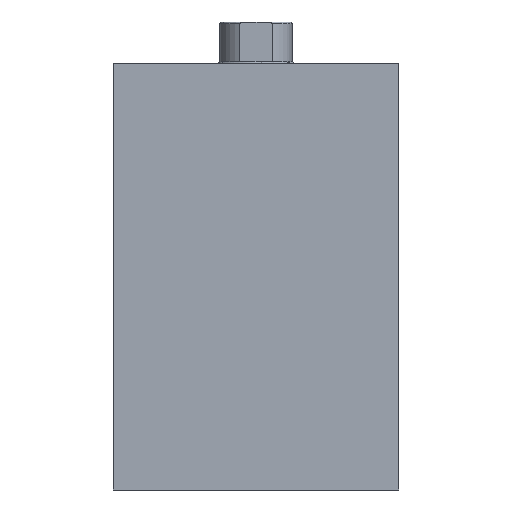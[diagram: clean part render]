
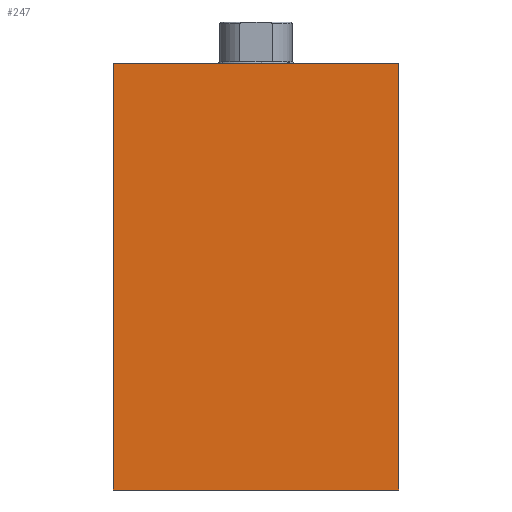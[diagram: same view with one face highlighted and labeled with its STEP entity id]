
A CAD part, left-side view. The second image highlights one B-rep face of the part: STEP entity #247.
In plain terms, the highlighted planar face has unit normal (-1, 0, 0) as drawn and (0, 0, -1) by its records, which use the part's own axes.
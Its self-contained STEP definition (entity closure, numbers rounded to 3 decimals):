
#247 = ADVANCED_FACE( '', ( #338 ), #339, .F. );
#338 = FACE_OUTER_BOUND( '', #554, .T. );
#339 = PLANE( '', #555 );
#554 = EDGE_LOOP( '', ( #789, #790, #791, #792 ) );
#555 = AXIS2_PLACEMENT_3D( '', #793, #794, #795 );
#789 = ORIENTED_EDGE( '', *, *, #1166, .T. );
#790 = ORIENTED_EDGE( '', *, *, #1183, .F. );
#791 = ORIENTED_EDGE( '', *, *, #1178, .F. );
#792 = ORIENTED_EDGE( '', *, *, #1182, .T. );
#793 = CARTESIAN_POINT( '', ( 112., -37.5, -27.5 ) );
#794 = DIRECTION( '', ( 0., 0., 1. ) );
#795 = DIRECTION( '', ( 1., 0., 0. ) );
#1166 = EDGE_CURVE( '', #1267, #1265, #1268, .T. );
#1178 = EDGE_CURVE( '', #1287, #1289, #1290, .T. );
#1182 = EDGE_CURVE( '', #1287, #1267, #1296, .T. );
#1183 = EDGE_CURVE( '', #1289, #1265, #1297, .T. );
#1265 = VERTEX_POINT( '', #1510 );
#1267 = VERTEX_POINT( '', #1513 );
#1268 = LINE( '', #1514, #1515 );
#1287 = VERTEX_POINT( '', #1706 );
#1289 = VERTEX_POINT( '', #1709 );
#1290 = LINE( '', #1710, #1711 );
#1296 = B_SPLINE_CURVE_WITH_KNOTS( '', 1, ( #1784, #1785 ), .UNSPECIFIED., .F., .F., ( 2, 2 ), ( 0., 1. ), .UNSPECIFIED. );
#1297 = B_SPLINE_CURVE_WITH_KNOTS( '', 1, ( #1786, #1787 ), .UNSPECIFIED., .F., .F., ( 2, 2 ), ( 0., 1. ), .UNSPECIFIED. );
#1510 = CARTESIAN_POINT( '', ( 0., 37.5, -27.5 ) );
#1513 = CARTESIAN_POINT( '', ( 0., -37.5, -27.5 ) );
#1514 = CARTESIAN_POINT( '', ( 0., -37.5, -27.5 ) );
#1515 = VECTOR( '', #3890, 1000. );
#1706 = CARTESIAN_POINT( '', ( 112., -37.5, -27.5 ) );
#1709 = CARTESIAN_POINT( '', ( 112., 37.5, -27.5 ) );
#1710 = CARTESIAN_POINT( '', ( 112., -37.5, -27.5 ) );
#1711 = VECTOR( '', #3897, 1000. );
#1784 = CARTESIAN_POINT( '', ( 112., -37.5, -27.5 ) );
#1785 = CARTESIAN_POINT( '', ( 0., -37.5, -27.5 ) );
#1786 = CARTESIAN_POINT( '', ( 112., 37.5, -27.5 ) );
#1787 = CARTESIAN_POINT( '', ( 0., 37.5, -27.5 ) );
#3890 = DIRECTION( '', ( 0., 1., 0. ) );
#3897 = DIRECTION( '', ( 0., 1., 0. ) );
